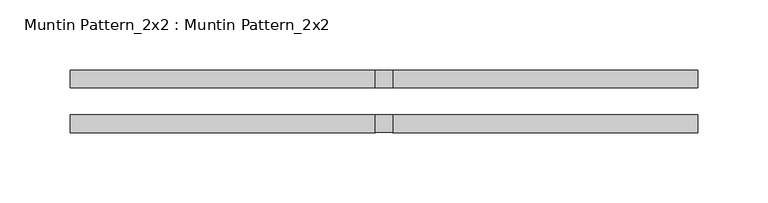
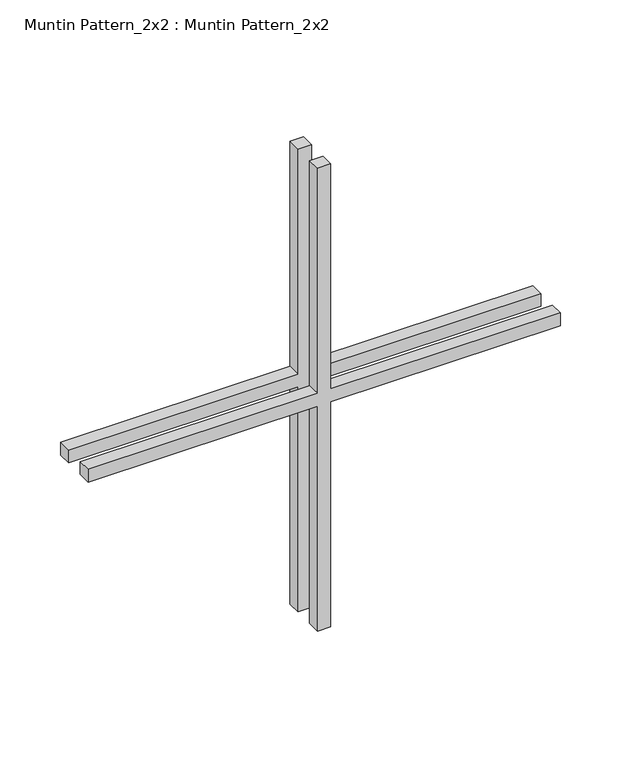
"""IFC4 building model written with IfcOpenShell, lengths in millimetres: proxy geometry, Muntin Pattern_2x2 : Muntin Pattern_2x2."""

import ifcopenshell
import ifcopenshell.guid

model = None  # the IFC model being written
_history = None  # IfcOwnerHistory: only IFC2X3 demands one
_inside = {}  # id of a spatial element -> (the spatial element, [elements in it])
_under = {}  # id of a project, library or spatial element -> (it, [spatial elements below it])
_declared = {}  # id of a project -> (the project, [libraries it declares])
_typed = {}  # id of a type object -> (the type object, [elements of that type])
_made_of = {}  # id of a material, layer set ... -> (it, [elements and type objects made of it])


def new_model(schema):
    """Start an empty IFC model of exactly this schema.

    Asked for "IFC4X3", IfcOpenShell would pick the latest addendum, in which some entities
    have other attributes; the version numbers below select the first issue.
    IFC2X3 requires an IfcOwnerHistory on every rooted entity: one is made here for all.
    """
    global model, _history
    if schema == "IFC4X3":
        model = ifcopenshell.file(schema_version=(4, 3, 0, 0))
    else:
        model = ifcopenshell.file(schema=schema)
    _inside.clear()
    _under.clear()
    _declared.clear()
    _typed.clear()
    _made_of.clear()
    _history = None
    if model.schema == "IFC2X3":
        org = make("IfcOrganization", Name="unknown")
        user = make(
            "IfcPersonAndOrganization",
            ThePerson=make("IfcPerson", FamilyName="unknown"),
            TheOrganization=org,
        )
        app = make(
            "IfcApplication",
            ApplicationDeveloper=org,
            Version="unknown",
            ApplicationFullName="unknown",
            ApplicationIdentifier="unknown",
        )
        _history = make(
            "IfcOwnerHistory",
            OwningUser=user,
            OwningApplication=app,
            ChangeAction="ADDED",
            CreationDate=0,
        )
    return model


def make(cls, **values):
    """One entity of the class cls with the attributes given. An attribute that is None is left unset."""
    return model.create_entity(
        cls, **{name: value for name, value in values.items() if value is not None}
    )


def rooted(cls, **values):
    """An entity with a GlobalId (a new one), such as an element, a storey or a relation."""
    return make(cls, GlobalId=ifcopenshell.guid.new(), OwnerHistory=_history, **values)


def si_unit(unit_type, name, prefix=None):
    """IfcSIUnit, for example si_unit("LENGTHUNIT", "METRE", prefix="MILLI")."""
    return make("IfcSIUnit", UnitType=unit_type, Prefix=prefix, Name=name)


def assignment(units):
    """IfcUnitAssignment: the units of a project."""
    return None if units is None else make("IfcUnitAssignment", Units=units)


def point(xyz):
    """IfcCartesianPoint."""
    return None if xyz is None else make("IfcCartesianPoint", Coordinates=xyz)


def direction(xyz):
    """IfcDirection."""
    return None if xyz is None else make("IfcDirection", DirectionRatios=xyz)


def frame(location, z_axis=None, x_axis=None):
    """IfcAxis2Placement3D, a coordinate frame: its origin and axes. An axis left out is left unset."""
    return make(
        "IfcAxis2Placement3D",
        Location=point(location),
        Axis=direction(z_axis),
        RefDirection=direction(x_axis),
    )


def origin():
    """The frame at (0, 0, 0) with its axes left unset."""
    return frame((0.0, 0.0, 0.0))


def place(relative_to, where):
    """IfcLocalPlacement: puts the frame where relative to a parent placement (None: the world)."""
    return make(
        "IfcLocalPlacement", PlacementRelTo=relative_to, RelativePlacement=where
    )


def context(
    kind, dimensions, precision=None, world=None, true_north=None, identifier=None
):
    """IfcGeometricRepresentationContext, for example the 3D "Model" context."""
    return make(
        "IfcGeometricRepresentationContext",
        ContextIdentifier=identifier,
        ContextType=kind,
        CoordinateSpaceDimension=dimensions,
        Precision=precision,
        WorldCoordinateSystem=world,
        TrueNorth=true_north,
    )


def project(units=None, contexts=None):
    """IfcProject with its units and contexts."""
    return rooted(
        "IfcProject",
        Name="project",
        RepresentationContexts=contexts,
        UnitsInContext=assignment(units),
    )


def spatial(cls, under=None, at=None, **own):
    """A site, building, storey or space (cls), placed at a placement, below another one or the project."""
    s = rooted(cls, ObjectPlacement=at, **own)
    if under is not None:
        _under.setdefault(under.id(), (under, []))[1].append(s)
    return s


def polyline(points):
    """IfcPolyline through the points."""
    return make("IfcPolyline", Points=[point(p) for p in points])


def outline(outer, holes=None, kind="AREA"):
    """IfcArbitraryClosedProfileDef: a profile drawn as a closed curve; with holes, ...WithVoids."""
    if holes is None:
        return make("IfcArbitraryClosedProfileDef", ProfileType=kind, OuterCurve=outer)
    return make(
        "IfcArbitraryProfileDefWithVoids",
        ProfileType=kind,
        OuterCurve=outer,
        InnerCurves=holes,
    )


def extrude(swept, where, along, depth):
    """IfcExtrudedAreaSolid: the profile swept, set in the frame where, extruded along a direction by depth."""
    return make(
        "IfcExtrudedAreaSolid",
        SweptArea=swept,
        Position=where,
        ExtrudedDirection=direction(along),
        Depth=depth,
    )


def shape(context_of_items, identifier, shape_type, items):
    """IfcShapeRepresentation: the items that make up one representation, for example the "Body"."""
    return make(
        "IfcShapeRepresentation",
        ContextOfItems=context_of_items,
        RepresentationIdentifier=identifier,
        RepresentationType=shape_type,
        Items=items,
    )


def source(mapping_origin, context_of_items, identifier, shape_type, items):
    """IfcRepresentationMap: a shape defined once, which mapped items show again and again."""
    return make(
        "IfcRepresentationMap",
        MappingOrigin=mapping_origin,
        MappedRepresentation=shape(context_of_items, identifier, shape_type, items),
    )


def transform(
    local_origin,
    x_axis=None,
    y_axis=None,
    z_axis=None,
    scale=None,
    scale2=None,
    scale3=None,
    uniform=True,
):
    """IfcCartesianTransformationOperator3D, or its non-uniform kind. x_axis, y_axis, z_axis: its Axis1, 2, 3."""
    if uniform:
        return make(
            "IfcCartesianTransformationOperator3D",
            Axis1=direction(x_axis),
            Axis2=direction(y_axis),
            LocalOrigin=point(local_origin),
            Scale=scale,
            Axis3=direction(z_axis),
        )
    return make(
        "IfcCartesianTransformationOperator3DnonUniform",
        Axis1=direction(x_axis),
        Axis2=direction(y_axis),
        LocalOrigin=point(local_origin),
        Scale=scale,
        Axis3=direction(z_axis),
        Scale2=scale2,
        Scale3=scale3,
    )


def mapped(mapping_source, mapping_target):
    """IfcMappedItem: shows the shape of a source again, moved by a transform."""
    return make(
        "IfcMappedItem", MappingSource=mapping_source, MappingTarget=mapping_target
    )


def made_of(thing, what):
    """Note that an element or type object is made of a material, layer set ...; save() writes the relation."""
    if what is not None:
        _made_of.setdefault(what.id(), (what, []))[1].append(thing)
    return thing


def element(
    cls,
    number,
    at=None,
    inside=None,
    cuts=None,
    type_object=None,
    material=None,
    context=None,
    identifier="Body",
    shape_type=None,
    held_by="IfcProductDefinitionShape",
    body=None,
    shapes=None,
    **own,
):
    """One element of the class cls, such as IfcWall. Its Tag is "e" and its number.

    at: its placement. inside: the storey or other place that contains it. cuts: it is an
    opening in that element (IfcRelVoidsElement). A single representation is given by context,
    identifier, shape_type and body (its items); several are given by shapes. held_by: the class
    of the entity that holds the representations. save() writes the other relations.
    """
    e = rooted(cls, Tag="e%d" % number, ObjectPlacement=at, **own)
    if body is not None:
        shapes = [shape(context, identifier, shape_type, body)]
    if shapes is not None:
        e.Representation = make(held_by, Representations=shapes)
    if inside is not None:
        _inside.setdefault(inside.id(), (inside, []))[1].append(e)
    if cuts is not None:
        rooted(
            "IfcRelVoidsElement", RelatingBuildingElement=cuts, RelatedOpeningElement=e
        )
    if type_object is not None:
        _typed.setdefault(type_object.id(), (type_object, []))[1].append(e)
    return made_of(e, material)


def aggregate(whole, parts):
    """IfcRelAggregates: a whole, such as a stair, and the parts it consists of."""
    return rooted("IfcRelAggregates", RelatingObject=whole, RelatedObjects=parts)


def save(model, path):
    """Write the relations noted so far, then the file.

    IfcRelAggregates (storeys below a building ...), IfcRelContainedInSpatialStructure (elements
    in a storey), IfcRelDefinesByType, IfcRelAssociatesMaterial and IfcRelDeclares: one each for
    every whole, place, type object, material and project.
    """
    for whole, parts in _under.values():
        aggregate(whole, parts)
    for where, things in _inside.values():
        rooted(
            "IfcRelContainedInSpatialStructure",
            RelatedElements=things,
            RelatingStructure=where,
        )
    for kind, things in _typed.values():
        rooted("IfcRelDefinesByType", RelatedObjects=things, RelatingType=kind)
    for what, things in _made_of.values():
        rooted("IfcRelAssociatesMaterial", RelatedObjects=things, RelatingMaterial=what)
    for by, libraries in _declared.values():
        rooted("IfcRelDeclares", RelatingContext=by, RelatedDefinitions=libraries)
    model.write(path)


def muntin_pattern_2x2_muntin_pattern_2x2_a48e9f40(model_context):
    return source(origin(), model_context, "Body", "SweptSolid", [
        extrude(outline(polyline([(238.125, -6.35), (238.125, -223.8375), (225.425, -223.8375), (225.425, -6.35), (0.0, -6.35), (0.0, 6.35), (225.425, 6.35), (225.425, 223.8375), (238.125, 223.8375), (238.125, 6.35), (463.55, 6.35), (463.55, -6.35), (238.125, -6.35)])), frame((0.0, 9.525, 0.0), z_axis=(0.0, 1.0, 0.0), x_axis=(0.0, 0.0, 1.0)), (0.0, 0.0, 1.0), 12.7),
        extrude(outline(polyline([(238.125, -6.35), (238.125, -223.8375), (225.425, -223.8375), (225.425, -6.35), (0.0, -6.35), (0.0, 6.35), (225.425, 6.35), (225.425, 223.8375), (238.125, 223.8375), (238.125, 6.35), (463.55, 6.35), (463.55, -6.35), (238.125, -6.35)])), frame((0.0, -22.225, 0.0), z_axis=(0.0, 1.0, 0.0), x_axis=(0.0, 0.0, 1.0)), (0.0, 0.0, 1.0), 12.7),
    ])


if __name__ == "__main__":
    model = new_model("IFC4")
    model_context = context("Model", 3, world=origin())
    ifc_project = project(units=[si_unit("LENGTHUNIT", "METRE", prefix="MILLI")], contexts=[model_context])
    site = spatial("IfcSite", under=ifc_project)
    building = spatial("IfcBuilding", under=site)
    placement = place(None, origin())
    muntin_pattern_2x2_muntin_pattern_2x2_shape = muntin_pattern_2x2_muntin_pattern_2x2_a48e9f40(model_context)
    element("IfcBuildingElementProxy", 1, Name="Muntin Pattern_2x2 : Muntin Pattern_2x2", ObjectType="Muntin Pattern_2x2 : Muntin Pattern_2x2", at=placement, inside=building, context=model_context, shape_type="MappedRepresentation", body=[
        mapped(muntin_pattern_2x2_muntin_pattern_2x2_shape, transform((0.0, 0.0, 0.0), x_axis=(1.0, 0.0, 0.0), y_axis=(0.0, 1.0, 0.0), z_axis=(0.0, 0.0, 1.0))),
    ])
    save(model, "model.ifc")
